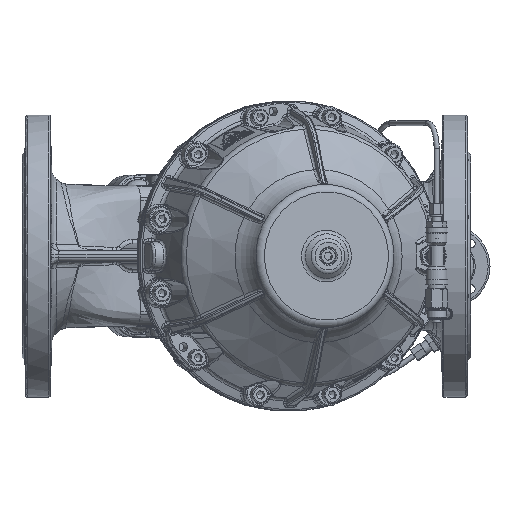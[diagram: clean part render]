
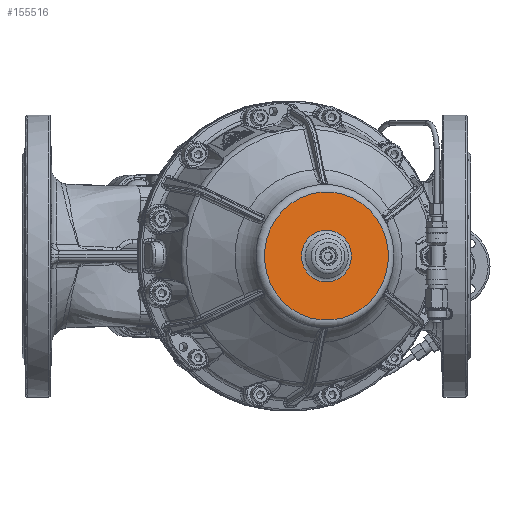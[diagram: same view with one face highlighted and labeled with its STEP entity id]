
A CAD part, front view. The second image highlights one B-rep face of the part: STEP entity #155516.
In plain terms, the highlighted planar face has unit normal (0.259, -0.966, 0).
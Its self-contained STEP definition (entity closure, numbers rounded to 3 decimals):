
#3337 = DIRECTION ( 'NONE',  ( -0.25, -0.067, -0.966 ) ) ;
#14535 = VERTEX_POINT ( 'NONE', #168834 ) ;
#22922 = CARTESIAN_POINT ( 'NONE',  ( 75.395, -281.376, 0. ) ) ;
#23031 = CIRCLE ( 'NONE', #147690, 20.157 ) ;
#31976 = ORIENTED_EDGE ( 'NONE', *, *, #140875, .T. ) ;
#39583 = DIRECTION ( 'NONE',  ( -0.25, -0.067, -0.966 ) ) ;
#69582 = CARTESIAN_POINT ( 'NONE',  ( 75.395, -281.376, 0. ) ) ;
#70154 = FACE_BOUND ( 'NONE', #155686, .T. ) ;
#86191 = DIRECTION ( 'NONE',  ( -0.25, -0.067, -0.966 ) ) ;
#88398 = CARTESIAN_POINT ( 'NONE',  ( 62.895, -284.725, -48.296 ) ) ;
#92826 = AXIS2_PLACEMENT_3D ( 'NONE', #150412, #102589, #3337 ) ;
#95378 = ORIENTED_EDGE ( 'NONE', *, *, #165695, .F. ) ;
#99391 = AXIS2_PLACEMENT_3D ( 'NONE', #69582, #185362, #86191 ) ;
#99892 = VERTEX_POINT ( 'NONE', #88398 ) ;
#102589 = DIRECTION ( 'NONE',  ( -0.259, 0.966, 0. ) ) ;
#114175 = FACE_OUTER_BOUND ( 'NONE', #143450, .T. ) ;
#138763 = DIRECTION ( 'NONE',  ( -0.259, 0.966, 0. ) ) ;
#140875 = EDGE_CURVE ( 'NONE', #14535, #14535, #23031, .T. ) ;
#143450 = EDGE_LOOP ( 'NONE', ( #95378 ) ) ;
#147690 = AXIS2_PLACEMENT_3D ( 'NONE', #22922, #138763, #39583 ) ;
#150412 = CARTESIAN_POINT ( 'NONE',  ( 122.045, -268.876, -12.941 ) ) ;
#152997 = CIRCLE ( 'NONE', #99391, 50. ) ;
#155516 = ADVANCED_FACE ( 'NONE', ( #70154, #114175 ), #201726, .F. ) ;
#155686 = EDGE_LOOP ( 'NONE', ( #31976 ) ) ;
#165695 = EDGE_CURVE ( 'NONE', #99892, #99892, #152997, .T. ) ;
#168834 = CARTESIAN_POINT ( 'NONE',  ( 70.355, -282.726, -19.47 ) ) ;
#185362 = DIRECTION ( 'NONE',  ( -0.259, 0.966, 0. ) ) ;
#201726 = PLANE ( 'NONE',  #92826 ) ;
